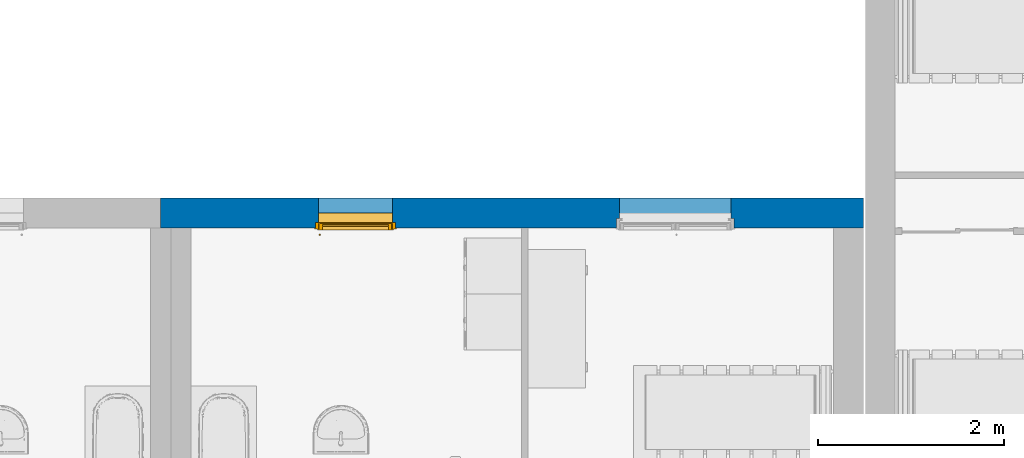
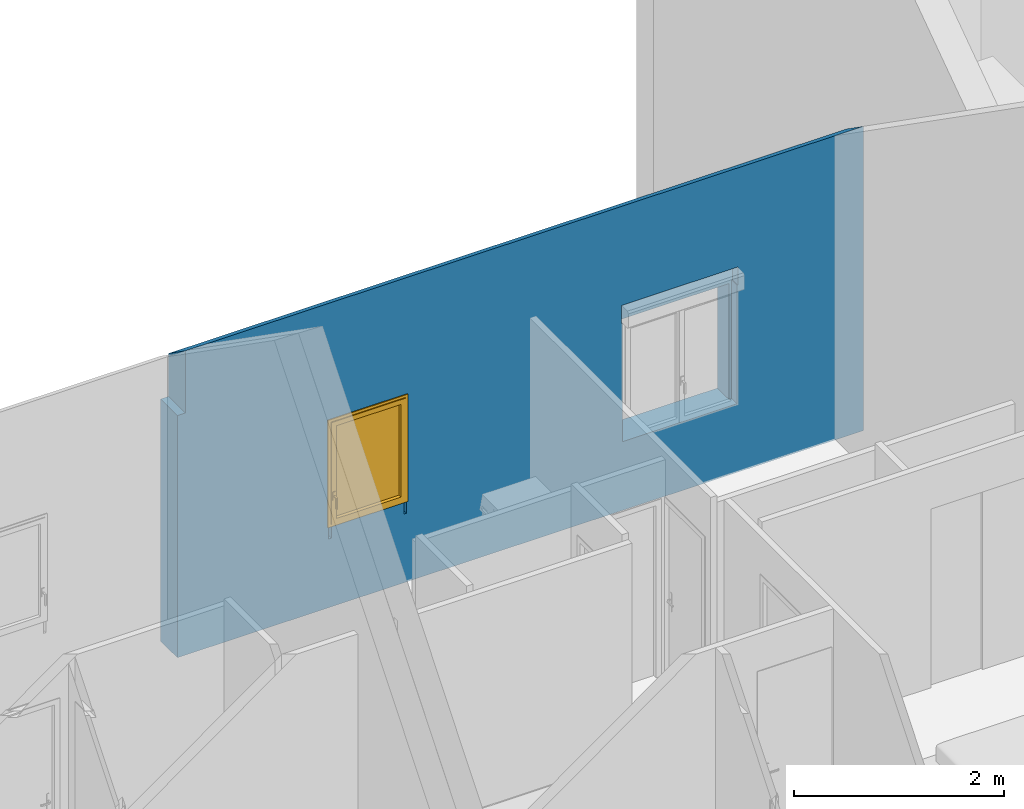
# One storey, part 22 of 61: 1 wall, 1 window, 2 openings.
"""IFC2X3 building model written with IfcOpenShell, lengths in metres."""

from ifc_helpers import new_model, entity, si_unit, converted_unit, derived_unit, direction, frame, frame_2d, origin, place, context, subcontext, project, spatial, polyline, rectangle, extrude, clip, bounded_halfspace, faceted_brep, source, transform, mapped, material, material_list, layer, layer_set, layer_usage, type_object, type_shapes, element, fill, save


model = new_model("IFC2X3")

# Units and contexts
model_context = context("Model", 3, precision=1e-05, world=origin(), true_north=direction((6.12303176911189e-17, 1.0)))
body_context = subcontext(model_context, "Body", "Model", "MODEL_VIEW")
ifc_project = project(units=[si_unit("LENGTHUNIT", "METRE"), si_unit("AREAUNIT", "SQUARE_METRE"), si_unit("VOLUMEUNIT", "CUBIC_METRE"), converted_unit("PLANEANGLEUNIT", "DEGREE", entity("IfcRatioMeasure", 0.0174532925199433), si_unit("PLANEANGLEUNIT", "RADIAN"), dimensions=[0, 0, 0, 0, 0, 0, 0]), si_unit("MASSUNIT", "GRAM", prefix="KILO"), derived_unit("MASSDENSITYUNIT", [(si_unit("MASSUNIT", "GRAM", prefix="KILO"), 1), (si_unit("LENGTHUNIT", "METRE"), -3)]), si_unit("TIMEUNIT", "SECOND"), si_unit("FREQUENCYUNIT", "HERTZ"), si_unit("THERMODYNAMICTEMPERATUREUNIT", "DEGREE_CELSIUS"), derived_unit("THERMALTRANSMITTANCEUNIT", [(si_unit("MASSUNIT", "GRAM", prefix="KILO"), 1), (si_unit("THERMODYNAMICTEMPERATUREUNIT", "KELVIN"), -1), (si_unit("TIMEUNIT", "SECOND"), -3)]), derived_unit("VOLUMETRICFLOWRATEUNIT", [(si_unit("LENGTHUNIT", "METRE"), 3), (si_unit("TIMEUNIT", "SECOND"), -1)]), si_unit("ELECTRICCURRENTUNIT", "AMPERE"), si_unit("ELECTRICVOLTAGEUNIT", "VOLT"), si_unit("POWERUNIT", "WATT"), si_unit("FORCEUNIT", "NEWTON", prefix="KILO"), si_unit("ILLUMINANCEUNIT", "LUX"), si_unit("LUMINOUSFLUXUNIT", "LUMEN"), si_unit("LUMINOUSINTENSITYUNIT", "CANDELA"), derived_unit("USERDEFINED", [(si_unit("MASSUNIT", "GRAM", prefix="KILO"), -1), (si_unit("LENGTHUNIT", "METRE"), -2), (si_unit("TIMEUNIT", "SECOND"), 3), (si_unit("LUMINOUSFLUXUNIT", "LUMEN"), 1)]), derived_unit("LINEARVELOCITYUNIT", [(si_unit("LENGTHUNIT", "METRE"), 1), (si_unit("TIMEUNIT", "SECOND"), -1)]), si_unit("PRESSUREUNIT", "PASCAL"), derived_unit("USERDEFINED", [(si_unit("LENGTHUNIT", "METRE"), -2), (si_unit("MASSUNIT", "GRAM", prefix="KILO"), 1), (si_unit("TIMEUNIT", "SECOND"), -2)])], contexts=[model_context])

# Site, building, storey
site_placement = place(None, origin())
site = spatial("IfcSite", under=ifc_project, at=site_placement, Name="Surface", CompositionType="ELEMENT")
building_placement = place(site_placement, origin())
building = spatial("IfcBuilding", under=site, at=building_placement, CompositionType="ELEMENT")
storey_placement = place(building_placement, frame((0.0, 0.0, 2.82)))
storey = spatial("IfcBuildingStorey", under=building, at=storey_placement, Name="ETAGE", CompositionType="ELEMENT", Elevation=2.82)

# Wall, openings, window
ifc_material_1 = material(Name="Enduit blanc cassé2")
ifc_layer_1 = layer(ifc_material_1, 0.02)
ifc_material_2 = material(Name="Parpaing")
ifc_layer_2 = layer(ifc_material_2, 0.2)
ifc_material_3 = material(Name="Isolant")
ifc_layer_3 = layer(ifc_material_3, 0.1)
ifc_layer_set = layer_set([ifc_layer_1, ifc_layer_2, ifc_layer_3], Name="Mur de base:Ext. Parpaing 20 + Isolant 10 enduit blanc cassé")
ifc_layer_usage = layer_usage(ifc_layer_set, "AXIS2", "NEGATIVE", 0.16)
wall_type = type_object("IfcWallType", Name="Mur de base:Ext. Parpaing 20 + Isolant 10 enduit blanc cassé", PredefinedType="STANDARD", material=ifc_layer_set)
wall_placement = place(storey_placement, frame((68.725009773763, 88.2677566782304, 0.0)))
wall = element("IfcWallStandardCase", 1, at=wall_placement, inside=storey, type_object=wall_type, material=ifc_layer_usage, Name="Mur de base:Ext. Parpaing 20 + Isolant 10 enduit blanc cassé", ObjectType="Mur de base:Ext. Parpaing 20 + Isolant 10 enduit blanc cassé", context=body_context, shape_type="Clipping", body=[
    clip(clip(extrude(rectangle(XDim=7.557879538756, YDim=0.319999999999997, at=frame_2d((3.778939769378, 2.692290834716e-15), x_axis=(-1.0, 0.0))), origin(), (0.0, 0.0, 1.0), 3.5440664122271), bounded_halfspace(frame((0.0892331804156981, -0.159999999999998, 3.5440664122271), z_axis=(0.0, 0.573576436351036, 0.819152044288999), x_axis=(-1.0, 0.0, 0.0)), False, frame((0.0892331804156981, -0.159999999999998, 3.5440664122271)), polyline([(0.0, 0.0), (0.0199999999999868, 0.0), (0.0207668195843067, 0.0), (0.239999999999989, 0.0), (7.14864635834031, 0.0), (7.4686463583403, 0.0), (7.4686463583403, 0.319999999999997), (0.0, 0.319999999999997), (0.0, 0.0)]))), bounded_halfspace(frame((0.0, -0.159999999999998, 2.82), z_axis=(0.0, 0.0, 1.0), x_axis=(0.0, 1.0, 0.0)), False, frame((0.0, -0.159999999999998, 2.82)), polyline([(0.0, 0.0), (0.0892331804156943, 0.0), (0.0892331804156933, 0.319999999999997), (0.0, 0.319999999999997), (0.0, 0.0)]))),
])
opening_1_placement = place(wall_placement, frame((1.66567488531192, -0.259999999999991, 0.799999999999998)))
opening_1 = element("IfcOpeningElement", 2, at=opening_1_placement, cuts=wall, Name="Mur de base:Ext. Parpaing 20 + Isolant 10 enduit blanc cassé", ObjectType="Opening", context=body_context, shape_type="Brep", body=[
    faceted_brep([(0.830000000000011, 0.0, 1.35), (0.830000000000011, 0.0999999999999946, 1.35), (0.0300000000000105, 0.0999999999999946, 1.35), (0.0300000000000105, 0.0, 1.35), (0.830000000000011, 0.720000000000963, 0.150000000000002), (0.830000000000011, 0.159999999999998, 0.150000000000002), (0.830000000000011, 0.0999999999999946, 0.150000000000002), (0.830000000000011, 0.0, 0.150000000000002), (0.0300000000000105, 0.0, 0.150000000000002), (0.0300000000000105, 0.0999999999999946, 0.150000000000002), (0.0300000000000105, 0.159999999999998, 0.150000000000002), (0.0300000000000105, 0.720000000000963, 0.150000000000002), (0.830000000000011, 0.720000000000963, 1.35), (0.0300000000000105, 0.720000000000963, 1.35), (0.830000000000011, 0.159999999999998, 1.35), (0.0300000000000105, 0.159999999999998, 0.0), (0.0300000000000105, 0.0999999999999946, 0.0), (0.0, 0.0999999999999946, 0.0), (0.0, 0.159999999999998, 0.0), (0.830000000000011, 0.0999999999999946, 0.0), (0.860000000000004, 0.0999999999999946, 0.0), (0.860000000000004, 0.0999999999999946, 1.38), (0.0, 0.0999999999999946, 1.38), (0.0, 0.159999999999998, 1.38), (0.860000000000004, 0.159999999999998, 1.38), (0.860000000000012, 0.159999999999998, 0.0), (0.830000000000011, 0.159999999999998, 0.0), (0.0300000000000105, 0.159999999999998, 1.35)], [[[0, 1, 2, 3]], [[4, 5, 6, 7, 8, 9, 10, 11]], [[12, 4, 11, 13]], [[3, 2, 9, 8]], [[3, 8, 7, 0]], [[12, 14, 5, 4]], [[15, 16, 17, 18]], [[15, 10, 9, 16]], [[16, 9, 2, 1, 6, 19, 20, 21, 22, 17]], [[17, 22, 23, 18]], [[18, 23, 24, 25, 26, 5, 14, 27, 10, 15]], [[21, 24, 23, 22]], [[19, 26, 25, 20]], [[19, 6, 5, 26]], [[20, 25, 24, 21]], [[7, 6, 1, 0]], [[11, 10, 27, 13]], [[13, 27, 14, 12]]]),
])
opening_2_placement = place(wall_placement, frame((4.89480635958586, -0.259999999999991, 0.799999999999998)))
element("IfcOpeningElement", 3, at=opening_2_placement, cuts=wall, Name="Mur de base:Ext. Parpaing 20 + Isolant 10 enduit blanc cassé", ObjectType="Opening", context=body_context, shape_type="Brep", body=[
    faceted_brep([(1.24, 0.0, 1.35), (1.24, 0.0999999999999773, 1.35), (0.0399999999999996, 0.0999999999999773, 1.35), (0.0399999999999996, 0.0, 1.35), (1.24, 0.720000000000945, 0.0), (1.24, 0.199999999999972, 0.0), (1.27000000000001, 0.199999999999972, 0.0), (1.27000000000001, 0.0999999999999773, 0.0), (1.24, 0.0999999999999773, 0.0), (1.24, 0.0, 0.0), (0.0399999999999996, 0.0, 0.0), (0.0399999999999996, 0.0999999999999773, 0.0), (0.0100000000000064, 0.0999999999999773, 0.0), (0.0100000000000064, 0.199999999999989, 0.0), (0.0399999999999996, 0.199999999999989, 0.0), (0.0400000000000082, 0.720000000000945, 0.0), (1.24, 0.720000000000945, 1.35), (0.0400000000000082, 0.720000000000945, 1.35), (1.24, 0.199999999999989, 1.35), (1.27, 0.0999999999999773, 1.38), (1.28000000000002, 0.100000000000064, 1.38000000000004), (1.28000000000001, 0.100000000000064, 1.59000000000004), (0.0, 0.100000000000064, 1.59000000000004), (0.0, 0.0999999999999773, 1.38000000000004), (0.0100000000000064, 0.0999999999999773, 1.38), (0.0100000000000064, 0.199999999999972, 1.38), (0.0, 0.199999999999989, 1.38000000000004), (0.0, 0.199999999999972, 1.59000000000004), (1.28000000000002, 0.199999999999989, 1.59000000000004), (1.28000000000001, 0.199999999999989, 1.38000000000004), (1.27000000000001, 0.199999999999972, 1.38), (0.0399999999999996, 0.199999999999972, 1.35)], [[[0, 1, 2, 3]], [[4, 5, 6, 7, 8, 9, 10, 11, 12, 13, 14, 15]], [[16, 4, 15, 17]], [[3, 2, 11, 10]], [[3, 10, 9, 0]], [[16, 18, 5, 4]], [[11, 2, 1, 8, 7, 19, 20, 21, 22, 23, 24, 12]], [[12, 24, 25, 13]], [[13, 25, 26, 27, 28, 29, 30, 6, 5, 18, 31, 14]], [[7, 6, 30, 19]], [[26, 23, 22, 27]], [[29, 28, 21, 20]], [[26, 25, 24, 23]], [[22, 21, 28, 27]], [[20, 19, 30, 29]], [[9, 8, 1, 0]], [[15, 14, 31, 17]], [[17, 31, 18, 16]]]),
])
ifc_material_4 = material(Name="Plastique - Bouvet - Blanc W012")
ifc_material_5 = material(Name="Verre - Bouvet - Vitrage")
ifc_material_6 = material(Name="Polyamide - Bouvet - Joint-Intercalaire")
ifc_material_list_1 = material_list([ifc_material_4, ifc_material_5, ifc_material_6])
ifc_material_list_2 = material_list([ifc_material_4, ifc_material_5, ifc_material_6])
window_style = type_object("IfcWindowStyle", Name="800 x 120 ht", ConstructionType="NOTDEFINED", OperationType="NOTDEFINED", ParameterTakesPrecedence=False, Sizeable=False, material=ifc_material_list_2)
shared_shape = source(origin(), body_context, "Body", "Brep", [
    faceted_brep([(0.0549999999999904, -0.650000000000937, 0.492500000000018), (0.0399999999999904, -0.650000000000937, 0.492500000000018), (0.0399999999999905, -0.650000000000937, 0.507500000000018), (0.0549999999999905, -0.650000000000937, 0.507500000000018), (0.0549999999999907, -0.685000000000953, 0.492500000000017), (0.0399999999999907, -0.685000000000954, 0.492500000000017), (0.0399999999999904, -0.685000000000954, 0.3775), (0.0399999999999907, -0.700000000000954, 0.3775), (0.0399999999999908, -0.700000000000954, 0.507500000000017), (0.0549999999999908, -0.700000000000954, 0.507500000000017), (0.0549999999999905, -0.700000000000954, 0.3775), (0.0549999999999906, -0.685000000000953, 0.3775)], [[[0, 1, 2, 3]], [[1, 0, 4, 5]], [[2, 1, 5, 6, 7, 8]], [[3, 2, 8, 9]], [[0, 3, 9, 10, 11, 4]], [[11, 10, 7, 6]], [[5, 4, 11, 6]], [[9, 8, 7, 10]]]),
    faceted_brep([(0.0625000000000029, -0.650000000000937, 0.550000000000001), (0.0325000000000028, -0.650000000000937, 0.550000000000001), (0.0325000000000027, -0.650000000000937, 0.450000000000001), (0.0625000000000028, -0.650000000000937, 0.450000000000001), (0.062500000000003, -0.640000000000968, 0.550000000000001), (0.0625000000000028, -0.640000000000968, 0.450000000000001), (0.0325000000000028, -0.640000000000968, 0.450000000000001), (0.0325000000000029, -0.640000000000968, 0.550000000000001)], [[[0, 1, 2, 3]], [[4, 5, 6, 7]], [[1, 0, 4, 7]], [[2, 1, 7, 6]], [[3, 2, 6, 5]], [[0, 3, 5, 4]]]),
    faceted_brep([(0.796999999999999, -0.602000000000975, 0.213), (0.0630000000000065, -0.60200000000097, 0.213), (0.0630000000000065, -0.59800000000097, 0.213), (0.796999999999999, -0.598000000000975, 0.213), (0.796999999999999, -0.602000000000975, 1.31700000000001), (0.0630000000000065, -0.60200000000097, 1.31700000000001), (0.0630000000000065, -0.59800000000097, 1.31700000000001), (0.796999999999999, -0.598000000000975, 1.31700000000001)], [[[0, 1, 2, 3]], [[4, 5, 1, 0]], [[5, 6, 2, 1]], [[6, 7, 3, 2]], [[7, 4, 0, 3]], [[4, 7, 6, 5]]]),
    faceted_brep([(0.0630000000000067, -0.58200000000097, 1.31700000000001), (0.0630000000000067, -0.57800000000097, 1.31700000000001), (0.0630000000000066, -0.57800000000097, 0.213), (0.0630000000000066, -0.58200000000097, 0.213), (0.796999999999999, -0.578000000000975, 1.31700000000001), (0.796999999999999, -0.578000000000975, 0.213), (0.796999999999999, -0.582000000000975, 1.31700000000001), (0.796999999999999, -0.582000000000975, 0.213)], [[[0, 1, 2, 3]], [[1, 4, 5, 2]], [[4, 6, 7, 5]], [[6, 0, 3, 7]], [[0, 6, 4, 1]], [[3, 2, 5, 7]]]),
    faceted_brep([(0.0750000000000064, -0.582000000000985, 1.30499999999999), (0.0750000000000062, -0.598000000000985, 1.30499999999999), (0.0750000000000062, -0.59800000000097, 0.225000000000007), (0.0750000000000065, -0.58200000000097, 0.225000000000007), (0.784999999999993, -0.598000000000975, 0.225000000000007), (0.784999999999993, -0.582000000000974, 0.225000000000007), (0.784999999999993, -0.59800000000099, 1.30499999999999), (0.796999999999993, -0.598000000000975, 0.213000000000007), (0.796999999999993, -0.59800000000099, 1.31699999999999), (0.0630000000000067, -0.598000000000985, 1.31699999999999), (0.0630000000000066, -0.59800000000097, 0.213000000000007), (0.784999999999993, -0.582000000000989, 1.30499999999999), (0.0630000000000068, -0.582000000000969, 0.213000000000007), (0.0630000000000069, -0.582000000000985, 1.31699999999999), (0.796999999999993, -0.58200000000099, 1.31699999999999), (0.796999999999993, -0.582000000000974, 0.213000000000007)], [[[0, 1, 2, 3]], [[3, 2, 4, 5]], [[2, 1, 6, 4], [7, 8, 9, 10]], [[5, 4, 6, 11]], [[5, 11, 0, 3], [12, 13, 14, 15]], [[9, 13, 12, 10]], [[10, 12, 15, 7]], [[7, 15, 14, 8]], [[11, 6, 1, 0]], [[8, 14, 13, 9]]], outer=[[True], [True], [False, True], [True], [False, True], [True], [True], [True], [True], [True]]),
    faceted_brep([(0.0630000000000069, -0.578000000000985, 1.31699999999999), (0.0630000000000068, -0.602000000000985, 1.31699999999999), (0.0630000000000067, -0.60200000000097, 0.213000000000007), (0.0630000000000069, -0.57800000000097, 0.213000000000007), (0.796999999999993, -0.602000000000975, 0.213000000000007), (0.796999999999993, -0.578000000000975, 0.213000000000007), (0.796999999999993, -0.60200000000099, 1.31699999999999), (0.804999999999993, -0.602000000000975, 0.205000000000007), (0.804999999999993, -0.60200000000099, 1.32499999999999), (0.0550000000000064, -0.602000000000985, 1.32499999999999), (0.0550000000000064, -0.60200000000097, 0.205000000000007), (0.796999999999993, -0.57800000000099, 1.31699999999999), (0.0550000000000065, -0.57800000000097, 0.205000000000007), (0.0550000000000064, -0.578000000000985, 1.32499999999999), (0.804999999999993, -0.57800000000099, 1.32499999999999), (0.804999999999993, -0.578000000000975, 0.205000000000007)], [[[0, 1, 2, 3]], [[3, 2, 4, 5]], [[2, 1, 6, 4], [7, 8, 9, 10]], [[5, 4, 6, 11]], [[5, 11, 0, 3], [12, 13, 14, 15]], [[9, 13, 12, 10]], [[10, 12, 15, 7]], [[7, 15, 14, 8]], [[11, 6, 1, 0]], [[8, 14, 13, 9]]], outer=[[True], [True], [False, True], [True], [False, True], [True], [True], [True], [True], [True]]),
    faceted_brep([(0.0400000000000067, -0.59000000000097, 1.33999999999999), (0.0400000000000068, -0.57000000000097, 1.33999999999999), (0.0400000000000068, -0.570000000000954, 0.190000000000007), (0.0400000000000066, -0.590000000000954, 0.190000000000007), (0.819999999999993, -0.570000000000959, 0.190000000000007), (0.819999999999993, -0.590000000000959, 0.190000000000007), (0.819999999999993, -0.570000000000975, 1.33999999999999), (0.784999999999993, -0.570000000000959, 0.225000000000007), (0.784999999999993, -0.570000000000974, 1.30499999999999), (0.0750000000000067, -0.570000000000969, 1.30499999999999), (0.0750000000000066, -0.570000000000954, 0.225000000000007), (0.819999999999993, -0.590000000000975, 1.33999999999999), (0.0550000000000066, -0.590000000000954, 0.205000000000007), (0.0550000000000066, -0.59000000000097, 1.32499999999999), (0.804999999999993, -0.590000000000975, 1.32499999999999), (0.804999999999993, -0.590000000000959, 0.205000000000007), (0.0550000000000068, -0.57800000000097, 1.32499999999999), (0.0550000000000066, -0.578000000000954, 0.205000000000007), (0.804999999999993, -0.578000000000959, 0.205000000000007), (0.804999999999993, -0.578000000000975, 1.32499999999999), (0.0750000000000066, -0.578000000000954, 0.225000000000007), (0.0750000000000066, -0.578000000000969, 1.30499999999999), (0.784999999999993, -0.578000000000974, 1.30499999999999), (0.784999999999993, -0.578000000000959, 0.225000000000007)], [[[0, 1, 2, 3]], [[3, 2, 4, 5]], [[2, 1, 6, 4], [7, 8, 9, 10]], [[5, 4, 6, 11]], [[5, 11, 0, 3], [12, 13, 14, 15]], [[16, 13, 12, 17]], [[17, 12, 15, 18]], [[18, 15, 14, 19]], [[18, 19, 16, 17], [20, 21, 22, 23]], [[9, 21, 20, 10]], [[10, 20, 23, 7]], [[7, 23, 22, 8]], [[11, 6, 1, 0]], [[19, 14, 13, 16]], [[8, 22, 21, 9]]]),
    faceted_brep([(0.0750000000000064, -0.602000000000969, 1.30499999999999), (0.0750000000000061, -0.64000000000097, 1.30499999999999), (0.0750000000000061, -0.640000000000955, 0.225000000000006), (0.0750000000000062, -0.602000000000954, 0.225000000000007), (0.784999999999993, -0.64000000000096, 0.225000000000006), (0.784999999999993, -0.602000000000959, 0.225000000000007), (0.784999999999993, -0.640000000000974, 1.30499999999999), (0.839999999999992, -0.640000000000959, 0.170000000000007), (0.839999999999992, -0.640000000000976, 1.35999999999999), (0.0200000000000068, -0.64000000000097, 1.35999999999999), (0.0200000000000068, -0.640000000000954, 0.170000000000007), (0.784999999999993, -0.602000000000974, 1.30499999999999), (0.0550000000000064, -0.602000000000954, 0.205000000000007), (0.0550000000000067, -0.60200000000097, 1.32499999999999), (0.804999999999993, -0.602000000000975, 1.32499999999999), (0.804999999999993, -0.602000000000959, 0.205000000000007), (0.0550000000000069, -0.59000000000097, 1.32499999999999), (0.0550000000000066, -0.590000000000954, 0.205000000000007), (0.804999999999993, -0.590000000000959, 0.205000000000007), (0.804999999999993, -0.590000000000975, 1.32499999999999), (0.0400000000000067, -0.590000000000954, 0.190000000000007), (0.0400000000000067, -0.59000000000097, 1.33999999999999), (0.819999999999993, -0.590000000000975, 1.33999999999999), (0.819999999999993, -0.590000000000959, 0.190000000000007), (0.0400000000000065, -0.630000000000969, 1.33999999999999), (0.0400000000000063, -0.630000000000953, 0.190000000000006), (0.819999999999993, -0.630000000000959, 0.190000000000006), (0.819999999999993, -0.630000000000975, 1.33999999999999), (0.0200000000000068, -0.630000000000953, 0.170000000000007), (0.0200000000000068, -0.630000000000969, 1.35999999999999), (0.839999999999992, -0.630000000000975, 1.35999999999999), (0.839999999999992, -0.630000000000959, 0.170000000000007)], [[[0, 1, 2, 3]], [[3, 2, 4, 5]], [[2, 1, 6, 4], [7, 8, 9, 10]], [[5, 4, 6, 11]], [[5, 11, 0, 3], [12, 13, 14, 15]], [[16, 13, 12, 17]], [[17, 12, 15, 18]], [[18, 15, 14, 19]], [[18, 19, 16, 17], [20, 21, 22, 23]], [[24, 21, 20, 25]], [[25, 20, 23, 26]], [[26, 23, 22, 27]], [[26, 27, 24, 25], [28, 29, 30, 31]], [[9, 29, 28, 10]], [[10, 28, 31, 7]], [[7, 31, 30, 8]], [[11, 6, 1, 0]], [[19, 14, 13, 16]], [[27, 22, 21, 24]], [[8, 30, 29, 9]]], outer=[[True], [True], [False, True], [True], [False, True], [True], [True], [True], [False, True], [True], [True], [True], [False, True], [True], [True], [True], [True], [True], [True], [True]]),
    faceted_brep([(0.829999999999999, -0.560000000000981, 0.180000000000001), (0.0299999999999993, -0.560000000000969, 0.180000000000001), (0.0299999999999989, -0.582000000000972, 0.180000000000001), (0.829999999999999, -0.582000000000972, 0.180000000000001), (0.829999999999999, -0.560000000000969, 1.35), (0.0299999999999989, -0.560000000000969, 1.35), (0.0, -0.560000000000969, 0.150000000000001), (0.0, -0.560000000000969, 1.38000000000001), (0.859999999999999, -0.560000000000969, 1.38000000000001), (0.859999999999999, -0.560000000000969, 0.150000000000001), (0.0299999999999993, -0.582000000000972, 1.35), (0.829999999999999, -0.582000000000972, 1.35), (0.0, -0.582000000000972, 1.38000000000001), (0.0, -0.582000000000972, 0.150000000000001), (0.859999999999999, -0.582000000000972, 1.38000000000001), (0.859999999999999, -0.582000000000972, 0.150000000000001)], [[[0, 1, 2, 3]], [[4, 5, 1, 0], [6, 7, 8, 9]], [[5, 10, 2, 1]], [[11, 4, 0, 3]], [[12, 7, 6, 13]], [[8, 14, 15, 9]], [[15, 13, 6, 9]], [[15, 14, 12, 13], [10, 11, 3, 2]], [[7, 12, 14, 8]], [[5, 4, 11, 10]]], outer=[[True], [False, True], [True], [True], [True], [True], [True], [True, False], [True], [True]]),
    faceted_brep([(0.0500000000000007, -0.560000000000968, 1.33), (0.0500000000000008, -0.570000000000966, 1.33), (0.0500000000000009, -0.570000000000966, 0.200000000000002), (0.0500000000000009, -0.560000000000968, 0.200000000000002), (0.809999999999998, -0.570000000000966, 0.200000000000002), (0.809999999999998, -0.560000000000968, 0.200000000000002), (0.809999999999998, -0.570000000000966, 1.33), (0.829999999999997, -0.570000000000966, 0.180000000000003), (0.829999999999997, -0.570000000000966, 1.35), (0.0300000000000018, -0.570000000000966, 1.35), (0.0300000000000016, -0.570000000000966, 0.180000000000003), (0.809999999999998, -0.560000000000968, 1.33), (0.0300000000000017, -0.560000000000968, 0.180000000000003), (0.0300000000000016, -0.560000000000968, 1.35), (0.829999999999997, -0.560000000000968, 1.35), (0.829999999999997, -0.560000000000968, 0.180000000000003)], [[[0, 1, 2, 3]], [[3, 2, 4, 5]], [[2, 1, 6, 4], [7, 8, 9, 10]], [[5, 4, 6, 11]], [[5, 11, 0, 3], [12, 13, 14, 15]], [[11, 6, 1, 0]], [[9, 13, 12, 10]], [[10, 12, 15, 7]], [[7, 15, 14, 8]], [[8, 14, 13, 9]]], outer=[[True], [True], [False, True], [True], [False, True], [True], [True], [True], [True], [True]]),
    faceted_brep([(0.0, -0.620000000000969, 1.38), (0.0, -0.582000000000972, 1.38), (0.0, -0.582000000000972, 0.150000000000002), (0.0, -0.620000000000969, 0.150000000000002), (0.859999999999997, -0.582000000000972, 0.150000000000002), (0.859999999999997, -0.620000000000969, 0.150000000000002), (0.859999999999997, -0.582000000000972, 1.38), (0.829999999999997, -0.582000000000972, 0.180000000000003), (0.829999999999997, -0.582000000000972, 1.35), (0.0300000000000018, -0.582000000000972, 1.35), (0.0300000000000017, -0.582000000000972, 0.180000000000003), (0.859999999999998, -0.620000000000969, 1.38), (-0.00999999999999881, -0.620000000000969, 0.140000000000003), (-0.00999999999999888, -0.620000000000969, 1.39), (0.869999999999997, -0.620000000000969, 1.39), (0.869999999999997, -0.620000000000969, 0.140000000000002), (-0.00999999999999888, -0.630000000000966, 1.39), (-0.00999999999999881, -0.630000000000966, 0.140000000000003), (0.869999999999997, -0.630000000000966, 0.140000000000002), (0.869999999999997, -0.630000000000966, 1.39), (0.0300000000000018, -0.630000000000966, 0.180000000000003), (0.0300000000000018, -0.630000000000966, 1.35), (0.829999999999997, -0.630000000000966, 1.35), (0.829999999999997, -0.630000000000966, 0.180000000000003)], [[[0, 1, 2, 3]], [[3, 2, 4, 5]], [[2, 1, 6, 4], [7, 8, 9, 10]], [[5, 4, 6, 11]], [[5, 11, 0, 3], [12, 13, 14, 15]], [[16, 13, 12, 17]], [[17, 12, 15, 18]], [[18, 15, 14, 19]], [[18, 19, 16, 17], [20, 21, 22, 23]], [[9, 21, 20, 10]], [[10, 20, 23, 7]], [[7, 23, 22, 8]], [[11, 6, 1, 0]], [[19, 14, 13, 16]], [[8, 22, 21, 9]]], outer=[[True], [True], [True, False], [True], [False, True], [True], [True], [True], [True, False], [True], [True], [True], [True], [True], [True]]),
    faceted_brep([(0.829999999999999, -0.460000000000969, 0.160000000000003), (0.829999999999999, -0.560000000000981, 0.165000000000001), (0.829999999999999, -0.560000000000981, 0.150000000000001), (0.829999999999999, -0.460000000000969, 0.150000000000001), (0.0299999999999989, -0.460000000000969, 0.160000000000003), (0.0299999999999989, -0.460000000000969, 0.150000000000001), (0.0299999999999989, -0.560000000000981, 0.150000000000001), (0.0299999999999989, -0.560000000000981, 0.165000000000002)], [[[0, 1, 2, 3]], [[4, 5, 6, 7]], [[1, 0, 4, 7]], [[2, 1, 7, 6]], [[3, 2, 6, 5]], [[0, 3, 5, 4]]]),
])
type_shapes(window_style, [shared_shape])
window_placement = place(opening_1_placement, frame((0.0, 0.720000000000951, 0.0)))
window = element("IfcWindow", 4, at=window_placement, inside=storey, type_object=window_style, material=ifc_material_list_1, Name="Windows_Opening-Hinge_BOUVET_Thermience_Fenetre_1V:800 x 120 ht", ObjectType="Windows_Opening-Hinge_BOUVET_Thermience_Fenetre_1V:800 x 120 ht", OverallHeight=1.39, OverallWidth=0.880000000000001, context=body_context, shape_type="MappedRepresentation", body=[
    mapped(shared_shape, transform((0.0, 0.0, 0.0), scale=1.0)),
])
fill(opening_1, window)

save(model, "model.ifc")
